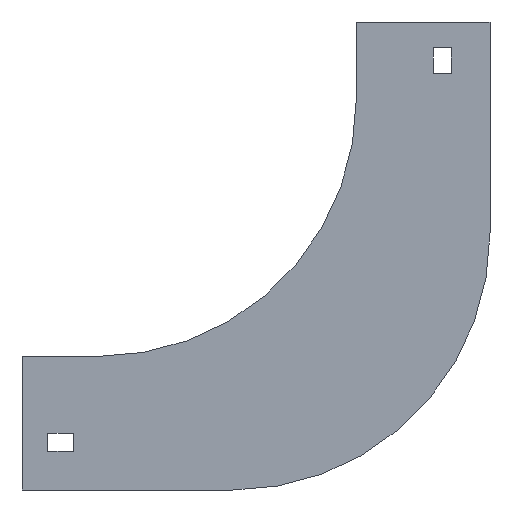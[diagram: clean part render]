
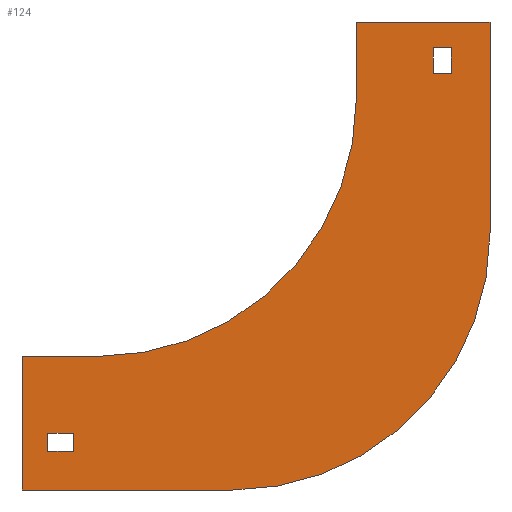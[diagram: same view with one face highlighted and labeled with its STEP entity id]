
A CAD part, left-side view. The second image highlights one B-rep face of the part: STEP entity #124.
In plain terms, the highlighted planar face has unit normal (-1, 0, 0).
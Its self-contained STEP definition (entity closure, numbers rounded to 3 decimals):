
#10 = CARTESIAN_POINT ( 'NONE',  ( -39.5, 0., 0. ) ) ;
#13 = DIRECTION ( 'NONE',  ( 0., 0., -1. ) ) ;
#16 = VECTOR ( 'NONE', #194, 1000. ) ;
#20 = VECTOR ( 'NONE', #62, 1000. ) ;
#25 = DIRECTION ( 'NONE',  ( 0., 0., 1. ) ) ;
#35 = DIRECTION ( 'NONE',  ( -1., 0., 0. ) ) ;
#38 = VERTEX_POINT ( 'NONE', #1150 ) ;
#46 = CARTESIAN_POINT ( 'NONE',  ( -39.5, 0., -30. ) ) ;
#48 = CARTESIAN_POINT ( 'NONE',  ( -39.5, 100., -30. ) ) ;
#50 = ORIENTED_EDGE ( 'NONE', *, *, #1247, .F. ) ;
#56 = CARTESIAN_POINT ( 'NONE',  ( -39.5, 100., -130. ) ) ;
#61 = EDGE_CURVE ( 'NONE', #1271, #38, #726, .T. ) ;
#62 = DIRECTION ( 'NONE',  ( 0., -1., 0. ) ) ;
#64 = CARTESIAN_POINT ( 'NONE',  ( -39.5, -30., -10. ) ) ;
#85 = ORIENTED_EDGE ( 'NONE', *, *, #1298, .F. ) ;
#96 = EDGE_CURVE ( 'NONE', #38, #490, #734, .T. ) ;
#104 = FACE_BOUND ( 'NONE', #895, .T. ) ;
#124 = ADVANCED_FACE ( 'NONE', ( #762, #205, #104 ), #858, .F. ) ;
#155 = DIRECTION ( 'NONE',  ( 0., 0., 1. ) ) ;
#162 = CIRCLE ( 'NONE', #953, 100. ) ;
#174 = DIRECTION ( 'NONE',  ( 0., -1., 0. ) ) ;
#184 = LINE ( 'NONE', #495, #1124 ) ;
#194 = DIRECTION ( 'NONE',  ( 0., -1., 0. ) ) ;
#197 = VERTEX_POINT ( 'NONE', #744 ) ;
#205 = FACE_BOUND ( 'NONE', #622, .T. ) ;
#216 = DIRECTION ( 'NONE',  ( 0., 0., -1. ) ) ;
#224 = CARTESIAN_POINT ( 'NONE',  ( -39.5, 120., -160. ) ) ;
#246 = VERTEX_POINT ( 'NONE', #900 ) ;
#248 = VERTEX_POINT ( 'NONE', #1344 ) ;
#260 = LINE ( 'NONE', #574, #743 ) ;
#273 = CARTESIAN_POINT ( 'NONE',  ( -39.5, 130., -182. ) ) ;
#275 = VECTOR ( 'NONE', #1370, 1000. ) ;
#292 = VECTOR ( 'NONE', #1114, 1000. ) ;
#295 = CARTESIAN_POINT ( 'NONE',  ( -39.5, -52., -82. ) ) ;
#307 = LINE ( 'NONE', #738, #728 ) ;
#322 = CARTESIAN_POINT ( 'NONE',  ( -39.5, -52., -82. ) ) ;
#325 = VECTOR ( 'NONE', #216, 1000. ) ;
#326 = EDGE_CURVE ( 'NONE', #248, #1271, #260, .T. ) ;
#329 = ORIENTED_EDGE ( 'NONE', *, *, #360, .F. ) ;
#330 = ORIENTED_EDGE ( 'NONE', *, *, #61, .T. ) ;
#343 = VECTOR ( 'NONE', #174, 1000. ) ;
#350 = ORIENTED_EDGE ( 'NONE', *, *, #923, .F. ) ;
#360 = EDGE_CURVE ( 'NONE', #514, #1280, #1217, .T. ) ;
#379 = CARTESIAN_POINT ( 'NONE',  ( -39.5, 120., -167. ) ) ;
#381 = LINE ( 'NONE', #273, #603 ) ;
#388 = VECTOR ( 'NONE', #639, 1000. ) ;
#402 = DIRECTION ( 'NONE',  ( 1., 0., 0. ) ) ;
#417 = DIRECTION ( 'NONE',  ( 0., 0., 1. ) ) ;
#424 = AXIS2_PLACEMENT_3D ( 'NONE', #852, #768, #13 ) ;
#429 = DIRECTION ( 'NONE',  ( 0., 1., 0. ) ) ;
#433 = EDGE_CURVE ( 'NONE', #1228, #1095, #184, .T. ) ;
#445 = ORIENTED_EDGE ( 'NONE', *, *, #489, .F. ) ;
#448 = CARTESIAN_POINT ( 'NONE',  ( -39.5, 130., -130. ) ) ;
#461 = VERTEX_POINT ( 'NONE', #295 ) ;
#489 = EDGE_CURVE ( 'NONE', #1208, #1228, #381, .T. ) ;
#490 = VERTEX_POINT ( 'NONE', #1050 ) ;
#495 = CARTESIAN_POINT ( 'NONE',  ( -39.5, 130., -130. ) ) ;
#514 = VERTEX_POINT ( 'NONE', #837 ) ;
#516 = DIRECTION ( 'NONE',  ( 0., 0., 1. ) ) ;
#538 = LINE ( 'NONE', #965, #783 ) ;
#574 = CARTESIAN_POINT ( 'NONE',  ( -39.5, -30., -10. ) ) ;
#580 = EDGE_CURVE ( 'NONE', #197, #1398, #538, .T. ) ;
#584 = LINE ( 'NONE', #10, #1155 ) ;
#589 = EDGE_LOOP ( 'NONE', ( #1297, #1107, #329, #1340, #1020, #445, #50, #1116 ) ) ;
#603 = VECTOR ( 'NONE', #1361, 1000. ) ;
#613 = CARTESIAN_POINT ( 'NONE',  ( -39.5, 48., -82. ) ) ;
#621 = CARTESIAN_POINT ( 'NONE',  ( -39.5, -52., 0. ) ) ;
#622 = EDGE_LOOP ( 'NONE', ( #995, #330, #690, #861 ) ) ;
#639 = DIRECTION ( 'NONE',  ( 0., 0., -1. ) ) ;
#652 = VECTOR ( 'NONE', #1246, 1000. ) ;
#660 = VERTEX_POINT ( 'NONE', #869 ) ;
#668 = ORIENTED_EDGE ( 'NONE', *, *, #1068, .F. ) ;
#690 = ORIENTED_EDGE ( 'NONE', *, *, #96, .T. ) ;
#726 = LINE ( 'NONE', #64, #16 ) ;
#727 = CARTESIAN_POINT ( 'NONE',  ( -39.5, 110., -160. ) ) ;
#728 = VECTOR ( 'NONE', #1170, 1000. ) ;
#734 = LINE ( 'NONE', #934, #652 ) ;
#738 = CARTESIAN_POINT ( 'NONE',  ( -39.5, 120., -167. ) ) ;
#743 = VECTOR ( 'NONE', #155, 1000. ) ;
#744 = CARTESIAN_POINT ( 'NONE',  ( -39.5, 110., -160. ) ) ;
#762 = FACE_OUTER_BOUND ( 'NONE', #589, .T. ) ;
#768 = DIRECTION ( 'NONE',  ( 1., 0., 0. ) ) ;
#773 = EDGE_CURVE ( 'NONE', #490, #248, #992, .T. ) ;
#780 = CARTESIAN_POINT ( 'NONE',  ( -39.5, -30., -20. ) ) ;
#783 = VECTOR ( 'NONE', #429, 1000. ) ;
#825 = CARTESIAN_POINT ( 'NONE',  ( -39.5, 130., -182. ) ) ;
#832 = LINE ( 'NONE', #621, #343 ) ;
#833 = ORIENTED_EDGE ( 'NONE', *, *, #580, .F. ) ;
#837 = CARTESIAN_POINT ( 'NONE',  ( -39.5, 100., -130. ) ) ;
#842 = LINE ( 'NONE', #224, #325 ) ;
#852 = CARTESIAN_POINT ( 'NONE',  ( -39.5, 100., -30. ) ) ;
#857 = EDGE_CURVE ( 'NONE', #1095, #514, #1031, .T. ) ;
#858 = PLANE ( 'NONE',  #424 ) ;
#861 = ORIENTED_EDGE ( 'NONE', *, *, #773, .T. ) ;
#869 = CARTESIAN_POINT ( 'NONE',  ( -39.5, 0., 0. ) ) ;
#879 = VERTEX_POINT ( 'NONE', #379 ) ;
#895 = EDGE_LOOP ( 'NONE', ( #350, #833, #85, #668 ) ) ;
#900 = CARTESIAN_POINT ( 'NONE',  ( -39.5, -52., 0. ) ) ;
#910 = DIRECTION ( 'NONE',  ( 0., 0., -1. ) ) ;
#923 = EDGE_CURVE ( 'NONE', #1398, #879, #842, .T. ) ;
#934 = CARTESIAN_POINT ( 'NONE',  ( -39.5, -37., -10. ) ) ;
#953 = AXIS2_PLACEMENT_3D ( 'NONE', #613, #402, #417 ) ;
#965 = CARTESIAN_POINT ( 'NONE',  ( -39.5, 120., -160. ) ) ;
#976 = VERTEX_POINT ( 'NONE', #1161 ) ;
#992 = LINE ( 'NONE', #780, #292 ) ;
#995 = ORIENTED_EDGE ( 'NONE', *, *, #326, .T. ) ;
#1020 = ORIENTED_EDGE ( 'NONE', *, *, #433, .F. ) ;
#1031 = LINE ( 'NONE', #56, #20 ) ;
#1040 = LINE ( 'NONE', #322, #388 ) ;
#1050 = CARTESIAN_POINT ( 'NONE',  ( -39.5, -37., -20. ) ) ;
#1068 = EDGE_CURVE ( 'NONE', #879, #976, #307, .T. ) ;
#1095 = VERTEX_POINT ( 'NONE', #448 ) ;
#1097 = EDGE_CURVE ( 'NONE', #1280, #660, #584, .T. ) ;
#1107 = ORIENTED_EDGE ( 'NONE', *, *, #1097, .F. ) ;
#1114 = DIRECTION ( 'NONE',  ( 0., 1., 0. ) ) ;
#1116 = ORIENTED_EDGE ( 'NONE', *, *, #1328, .F. ) ;
#1124 = VECTOR ( 'NONE', #516, 1000. ) ;
#1150 = CARTESIAN_POINT ( 'NONE',  ( -39.5, -37., -10. ) ) ;
#1155 = VECTOR ( 'NONE', #25, 1000. ) ;
#1161 = CARTESIAN_POINT ( 'NONE',  ( -39.5, 110., -167. ) ) ;
#1170 = DIRECTION ( 'NONE',  ( 0., -1., 0. ) ) ;
#1208 = VERTEX_POINT ( 'NONE', #1377 ) ;
#1217 = CIRCLE ( 'NONE', #1240, 100. ) ;
#1228 = VERTEX_POINT ( 'NONE', #825 ) ;
#1235 = CARTESIAN_POINT ( 'NONE',  ( -39.5, 120., -160. ) ) ;
#1240 = AXIS2_PLACEMENT_3D ( 'NONE', #48, #35, #910 ) ;
#1246 = DIRECTION ( 'NONE',  ( 0., 0., -1. ) ) ;
#1247 = EDGE_CURVE ( 'NONE', #461, #1208, #162, .T. ) ;
#1259 = LINE ( 'NONE', #727, #275 ) ;
#1267 = EDGE_CURVE ( 'NONE', #660, #246, #832, .T. ) ;
#1270 = CARTESIAN_POINT ( 'NONE',  ( -39.5, -30., -10. ) ) ;
#1271 = VERTEX_POINT ( 'NONE', #1270 ) ;
#1280 = VERTEX_POINT ( 'NONE', #46 ) ;
#1297 = ORIENTED_EDGE ( 'NONE', *, *, #1267, .F. ) ;
#1298 = EDGE_CURVE ( 'NONE', #976, #197, #1259, .T. ) ;
#1328 = EDGE_CURVE ( 'NONE', #246, #461, #1040, .T. ) ;
#1340 = ORIENTED_EDGE ( 'NONE', *, *, #857, .F. ) ;
#1344 = CARTESIAN_POINT ( 'NONE',  ( -39.5, -30., -20. ) ) ;
#1361 = DIRECTION ( 'NONE',  ( 0., 1., 0. ) ) ;
#1370 = DIRECTION ( 'NONE',  ( 0., 0., 1. ) ) ;
#1377 = CARTESIAN_POINT ( 'NONE',  ( -39.5, 48., -182. ) ) ;
#1398 = VERTEX_POINT ( 'NONE', #1235 ) ;
